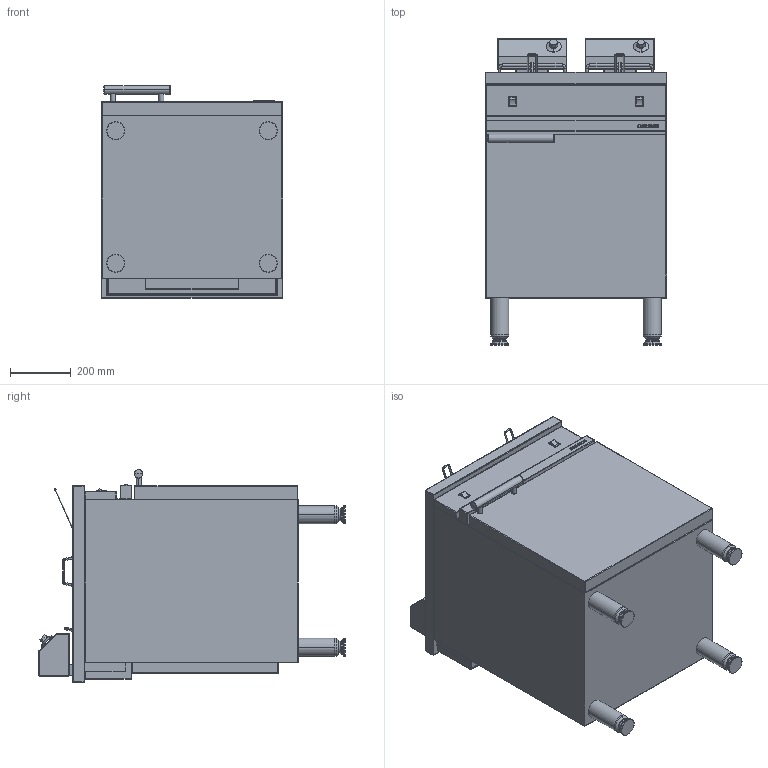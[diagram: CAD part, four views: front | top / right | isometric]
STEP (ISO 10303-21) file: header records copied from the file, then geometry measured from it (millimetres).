
FILE_DESCRIPTION((''),'2;1');
FILE_NAME('CME625FR_CPM_D_EXPORT_STEP_ASM','2017-11-22T',('r.avril'),(''),'PRO/ENGINEER BY PARAMETRIC TECHNOLOGY CORPORATION, 2014200','PRO/ENGINEER BY PARAMETRIC TECHNOLOGY CORPORATION, 2014200','');
FILE_SCHEMA(('AP203_CONFIGURATION_CONTROLLED_3D_DESIGN_OF_MECHANICAL_PARTS_AND_ASSEMBLIES_MIM_LF { 1 0 10303 403 2 1 2 }'));
Length unit declared in the file: millimetre
Products named in the file (10): MODULES_AMB_600_EXPORT_STEP; TABLE_CME_625_626_FR; MANETTE_FRITEUSE_EXPORT_STEP; 65101004; 65101004_MANETTE_VANNE; 65101004_ASM; TABLE_CME_625_626_FR_ASM; BASCULEUR_AMB_EXPORT_DXF; PORTE_MODULE_AMB_600D; CME625FR_CPM_D_EXPORT_STEP_ASM
Assembly tree (12 placements, depth 4):
  CME625FR_CPM_D_EXPORT_STEP_ASM
    MODULES_AMB_600_EXPORT_STEP
    TABLE_CME_625_626_FR_ASM
      TABLE_CME_625_626_FR
      MANETTE_FRITEUSE_EXPORT_STEP  x2
      65101004_ASM  x2
        65101004
        65101004_MANETTE_VANNE
    BASCULEUR_AMB_EXPORT_DXF  x2
    PORTE_MODULE_AMB_600D
Bounding box: 600 x 1011.5 x 703 mm (x, y, z)
Volume: 84170691.4 mm3; surface area: 7481327.7 mm2
Topology: 25 solids, 43 shells, 1287 faces, 3595 edges, 2658 vertices
Faces by surface type: cylinder 521, plane 402, bspline 116, torus 104, sphere 88, cone 56
Entity records: 48305 total; most frequent: CARTESIAN_POINT 14414, DIRECTION 5901, ORIENTED_EDGE 5360, EDGE_CURVE 2905, AXIS2_PLACEMENT_3D 2173, VERTEX_POINT 1892, VECTOR 1525, LINE 1525
